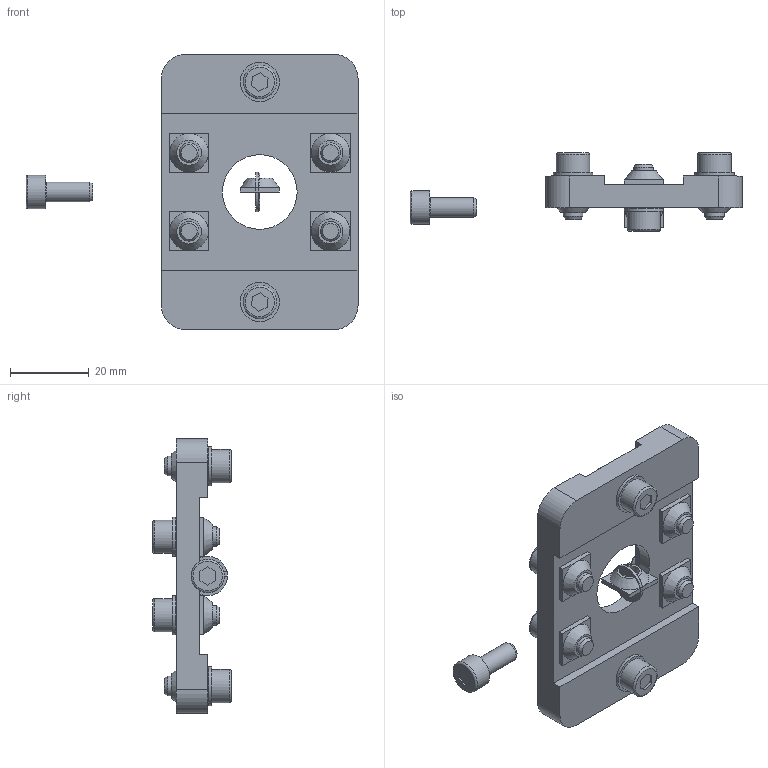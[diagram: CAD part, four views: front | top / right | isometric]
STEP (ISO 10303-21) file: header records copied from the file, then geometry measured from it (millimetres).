
FILE_DESCRIPTION( ( 'Unknown' ), '1' );
FILE_NAME( 'C:/Users/Fabrizio/Desktop/DISEGNI ACCESSORI FP SOLIDEDGE/CA.03.01.004.stp', 'Unknown', ( 'Unknown' ), ( 'Unknown' ), 'PSStep 13.0', 'Unknown', ' ' );
FILE_SCHEMA( ( 'AUTOMOTIVE_DESIGN { 1 0 10303 214 1 1 1 1 }' ) );
Length unit declared in the file: millimetre
Products named in the file (5): Assem1; 03-01-004; ca.02.05.007; rondellaDIN 125 - A 5.3; V-tcei M  5 x 12
Bounding box: 84.5 x 20 x 70 mm (x, y, z)
Volume: 42118.3 mm3; surface area: 24153.9 mm2
Topology: 23 solids, 23 shells, 253 faces, 544 edges, 358 vertices
Faces by surface type: plane 161, cylinder 57, cone 21, torus 14
Full cylindrical faces by diameter (mm): 5 x14, 5.2 x12, 5.3 x7, 8.5 x7, 10 x7, 19 x2
Entity records: 2074 total; most frequent: DIRECTION 294, CARTESIAN_POINT 264, ORIENTED_EDGE 216, AXIS2_PLACEMENT_3D 112, EDGE_CURVE 108, EDGE_LOOP 92, VERTEX_POINT 82, LINE 70
